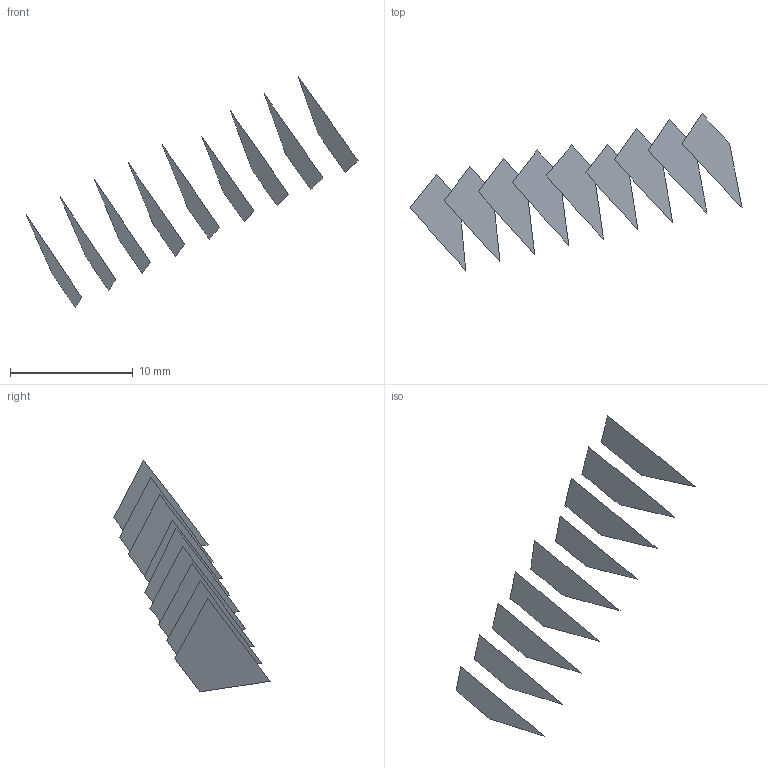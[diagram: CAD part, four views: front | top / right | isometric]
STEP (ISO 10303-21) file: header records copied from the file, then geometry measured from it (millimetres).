
FILE_DESCRIPTION(('FreeCAD Model'),'2;1');
FILE_NAME('Open CASCADE Shape Model','2022-05-22T07:50:32',('FreeCAD'),( 'FreeCAD'),'Open CASCADE STEP processor 7.5','FreeCAD','Unknown');
FILE_SCHEMA(('AUTOMOTIVE_DESIGN { 1 0 10303 214 1 1 1 1 }'));
Length unit declared in the file: millimetre
Products named in the file (10): Open CASCADE STEP translator 7.5 16; Open CASCADE STEP translator 7.5 16.1; Open CASCADE STEP translator 7.5 16.2; Open CASCADE STEP translator 7.5 16.3; Open CASCADE STEP translator 7.5 16.4; Open CASCADE STEP translator 7.5 16.5; Open CASCADE STEP translator 7.5 16.6; Open CASCADE STEP translator 7.5 16.7; Open CASCADE STEP translator 7.5 16.8; Open CASCADE STEP translator 7.5 16.9
Assembly tree (9 placements, depth 2):
  Open CASCADE STEP translator 7.5 16
    Open CASCADE STEP translator 7.5 16.1
    Open CASCADE STEP translator 7.5 16.2
    Open CASCADE STEP translator 7.5 16.3
    Open CASCADE STEP translator 7.5 16.4
    Open CASCADE STEP translator 7.5 16.5
    Open CASCADE STEP translator 7.5 16.6
    Open CASCADE STEP translator 7.5 16.7
    Open CASCADE STEP translator 7.5 16.8
    Open CASCADE STEP translator 7.5 16.9
Bounding box: 27.05 x 12.73 x 18.9 mm (x, y, z)
Surface area: 307 mm2 (no closed solid volume)
Topology: 0 solids, 9 shells, 9 faces, 83 edges, 83 vertices
Faces by surface type: bspline 9
Entity records: 1347 total; most frequent: CARTESIAN_POINT 461, B_SPLINE_CURVE_WITH_KNOTS 166, ORIENTED_EDGE 83, EDGE_CURVE 83, VERTEX_POINT 83, SURFACE_CURVE 83, PCURVE 83, DEFINITIONAL_REPRESENTATION 83
